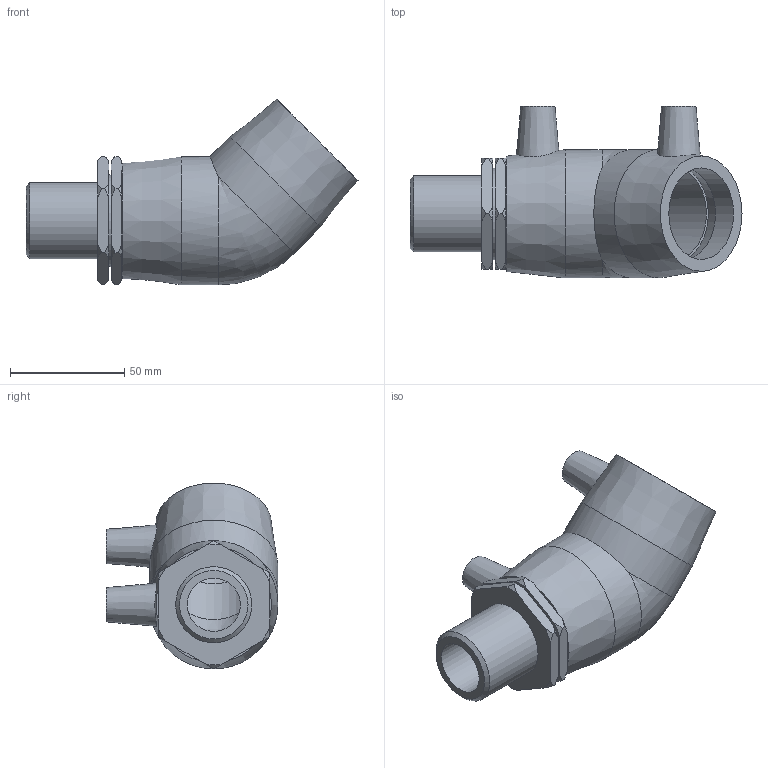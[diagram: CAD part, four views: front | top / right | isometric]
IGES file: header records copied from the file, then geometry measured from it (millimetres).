
Global section: file name: 497604040010.ipt; native system: Autodesk Inventor 2015; preprocessor: unknown; author: KIM; date: 20171106.094434; units: millimetre
Bounding box: 145 x 75 x 81.1 mm (x, y, z)
Volume: 170517.1 mm3; surface area: 47062.2 mm2
Topology: 1 solids, 2 shells, 79 faces, 202 edges, 137 vertices
Faces by surface type: plane 31, cone 29, cylinder 9, revolution 8, bspline 2
Full cylindrical faces by diameter (mm): 4 x2, 33.249 x1, 40 x3, 56 x2
